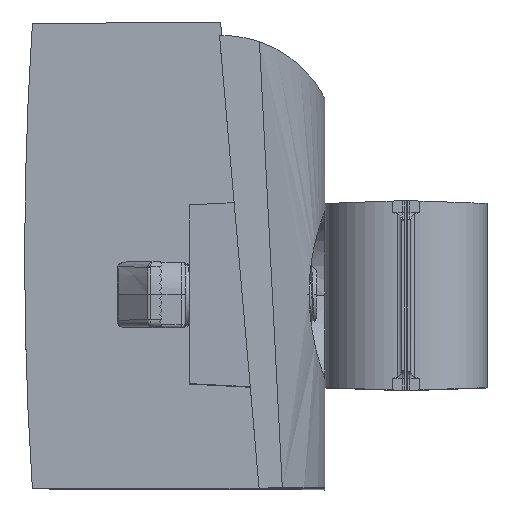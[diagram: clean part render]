
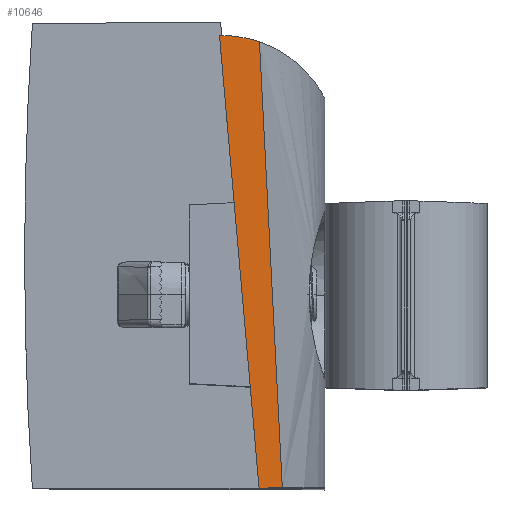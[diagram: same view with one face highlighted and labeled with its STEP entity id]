
A CAD part, top view. The second image highlights one B-rep face of the part: STEP entity #10646.
In plain terms, the highlighted planar face has unit normal (0.017, 0.002, 1) as drawn and (-0.017, 0.002, -1) by its records, which use the part's own axes.
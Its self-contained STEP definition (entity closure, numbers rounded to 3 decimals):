
#427 = CARTESIAN_POINT ( 'NONE',  ( -31.512, 28.919, -34.93 ) ) ;
#644 = CARTESIAN_POINT ( 'NONE',  ( -30.372, 51.291, -34.916 ) ) ;
#715 = EDGE_CURVE ( 'NONE', #9492, #8015, #5163, .T. ) ;
#1250 = LINE ( 'NONE', #20690, #20703 ) ;
#1322 = DIRECTION ( 'NONE',  ( -0.087, -0.996, 0. ) ) ;
#2161 = CARTESIAN_POINT ( 'NONE',  ( -32.997, 0.052, -34.948 ) ) ;
#2322 = VERTEX_POINT ( 'NONE', #7161 ) ;
#2373 = VECTOR ( 'NONE', #1322, 1000. ) ;
#2374 = CARTESIAN_POINT ( 'NONE',  ( -31.965, 20.011, -34.936 ) ) ;
#2838 = CARTESIAN_POINT ( 'NONE',  ( -32.997, 0.052, -34.948 ) ) ;
#3060 = VECTOR ( 'NONE', #5663, 1000. ) ;
#3142 = CARTESIAN_POINT ( 'NONE',  ( -30., 0., -35. ) ) ;
#3189 = CARTESIAN_POINT ( 'NONE',  ( -29.772, 2.605, -35. ) ) ;
#5163 = B_SPLINE_CURVE_WITH_KNOTS ( 'NONE', 3,
 ( #9167, #21247, #644, #21464, #5487, #11209, #19513, #16044, #7660, #5704, #15921, #17998, #14216, #427, #12921, #10775, #14650, #8941, #2374, #19624, #2161 ),
 .UNSPECIFIED., .F., .F.,
 ( 4, 2, 2, 1, 1, 1, 1, 1, 1, 1, 1, 1, 2, 2, 4 ),
 ( 0., 0.25, 0.375, 0.438, 0.469, 0.484, 0.492, 0.496, 0.498, 0.499, 0.5, 0.5, 0.5, 0.5, 1. ),
 .UNSPECIFIED. ) ;
#5196 = VERTEX_POINT ( 'NONE', #3142 ) ;
#5236 = ORIENTED_EDGE ( 'NONE', *, *, #20764, .F. ) ;
#5411 = CARTESIAN_POINT ( 'NONE',  ( -26.841, 58.5, -34.966 ) ) ;
#5487 = CARTESIAN_POINT ( 'NONE',  ( -30.875, 41.417, -34.922 ) ) ;
#5663 = DIRECTION ( 'NONE',  ( 0.087, 0.996, 0. ) ) ;
#5704 = CARTESIAN_POINT ( 'NONE',  ( -31.476, 29.627, -34.929 ) ) ;
#5723 = VECTOR ( 'NONE', #13324, 1000. ) ;
#6267 = ORIENTED_EDGE ( 'NONE', *, *, #14714, .T. ) ;
#7025 = EDGE_CURVE ( 'NONE', #2322, #13084, #9061, .T. ) ;
#7161 = CARTESIAN_POINT ( 'NONE',  ( -25.183, 58.5, -34.995 ) ) ;
#7542 = LINE ( 'NONE', #14315, #5723 ) ;
#7660 = CARTESIAN_POINT ( 'NONE',  ( -31.437, 30.375, -34.929 ) ) ;
#8015 = VERTEX_POINT ( 'NONE', #2838 ) ;
#8328 = CARTESIAN_POINT ( 'NONE',  ( -28.854, 13.1, -35. ) ) ;
#8675 = LINE ( 'NONE', #8328, #2373 ) ;
#8865 = CARTESIAN_POINT ( 'NONE',  ( -28.476, 58.228, -34.938 ) ) ;
#8906 = LINE ( 'NONE', #3189, #3060 ) ;
#8941 = CARTESIAN_POINT ( 'NONE',  ( -31.514, 28.873, -34.93 ) ) ;
#9011 = ORIENTED_EDGE ( 'NONE', *, *, #18920, .T. ) ;
#9035 = CARTESIAN_POINT ( 'NONE',  ( -28.854, 13.1, -35. ) ) ;
#9061 = LINE ( 'NONE', #9265, #19367 ) ;
#9167 = CARTESIAN_POINT ( 'NONE',  ( -30.044, 57.691, -34.911 ) ) ;
#9265 = CARTESIAN_POINT ( 'NONE',  ( -29.771, 58.5, -34.915 ) ) ;
#9492 = VERTEX_POINT ( 'NONE', #17478 ) ;
#10646 = ADVANCED_FACE ( 'NONE', ( #21615 ), #16409, .T. ) ;
#10775 = CARTESIAN_POINT ( 'NONE',  ( -31.513, 28.885, -34.93 ) ) ;
#11209 = CARTESIAN_POINT ( 'NONE',  ( -31.1, 37.013, -34.924 ) ) ;
#12053 = ORIENTED_EDGE ( 'NONE', *, *, #21585, .T. ) ;
#12257 = EDGE_LOOP ( 'NONE', ( #9011, #22560, #6267, #14005, #12053, #5236, #21584 ) ) ;
#12921 = CARTESIAN_POINT ( 'NONE',  ( -31.513, 28.895, -34.93 ) ) ;
#13084 = VERTEX_POINT ( 'NONE', #18307 ) ;
#13324 = DIRECTION ( 'NONE',  ( -1., 0.017, 0.017 ) ) ;
#13606 = VERTEX_POINT ( 'NONE', #16203 ) ;
#14005 = ORIENTED_EDGE ( 'NONE', *, *, #7025, .T. ) ;
#14216 = CARTESIAN_POINT ( 'NONE',  ( -31.509, 28.966, -34.93 ) ) ;
#14315 = CARTESIAN_POINT ( 'NONE',  ( -29.818, -0.003, -35.003 ) ) ;
#14650 = CARTESIAN_POINT ( 'NONE',  ( -31.514, 28.878, -34.93 ) ) ;
#14714 = EDGE_CURVE ( 'NONE', #9492, #2322, #18953, .T. ) ;
#15011 = VERTEX_POINT ( 'NONE', #9035 ) ;
#15286 = AXIS2_PLACEMENT_3D ( 'NONE', #17710, #16082, #16301 ) ;
#15921 = CARTESIAN_POINT ( 'NONE',  ( -31.495, 29.25, -34.929 ) ) ;
#16044 = CARTESIAN_POINT ( 'NONE',  ( -31.362, 31.849, -34.928 ) ) ;
#16082 = DIRECTION ( 'NONE',  ( -0.017, 0.002, -1. ) ) ;
#16203 = CARTESIAN_POINT ( 'NONE',  ( -26.772, 36.9, -35. ) ) ;
#16301 = DIRECTION ( 'NONE',  ( -1., 0., 0.017 ) ) ;
#16409 = PLANE ( 'NONE',  #15286 ) ;
#16551 = EDGE_CURVE ( 'NONE', #15011, #5196, #8675, .T. ) ;
#17478 = CARTESIAN_POINT ( 'NONE',  ( -30.044, 57.691, -34.911 ) ) ;
#17710 = CARTESIAN_POINT ( 'NONE',  ( -29.772, 2.605, -35. ) ) ;
#17816 = CARTESIAN_POINT ( 'NONE',  ( -25.183, 58.5, -34.995 ) ) ;
#17998 = CARTESIAN_POINT ( 'NONE',  ( -31.504, 29.061, -34.93 ) ) ;
#18307 = CARTESIAN_POINT ( 'NONE',  ( -24.882, 58.5, -35. ) ) ;
#18920 = EDGE_CURVE ( 'NONE', #5196, #8015, #7542, .T. ) ;
#18953 =( BOUNDED_CURVE ( )  B_SPLINE_CURVE ( 3, ( #21280, #8865, #5411, #17816 ),
 .UNSPECIFIED., .F., .F. ) 
 B_SPLINE_CURVE_WITH_KNOTS ( ( 4, 4 ),
 ( 4.295, 4.625 ),
 .UNSPECIFIED. ) 
 CURVE ( )  GEOMETRIC_REPRESENTATION_ITEM ( )  RATIONAL_B_SPLINE_CURVE ( ( 1., 0.991, 0.991, 1. ) ) 
 REPRESENTATION_ITEM ( '' )  );
#19367 = VECTOR ( 'NONE', #19950, 1000. ) ;
#19513 = CARTESIAN_POINT ( 'NONE',  ( -31.217, 34.711, -34.926 ) ) ;
#19624 = CARTESIAN_POINT ( 'NONE',  ( -32.459, 10.405, -34.941 ) ) ;
#19950 = DIRECTION ( 'NONE',  ( 1., 0., -0.017 ) ) ;
#20340 = DIRECTION ( 'NONE',  ( -0.087, -0.996, 0. ) ) ;
#20690 = CARTESIAN_POINT ( 'NONE',  ( -24.882, 58.5, -35. ) ) ;
#20703 = VECTOR ( 'NONE', #20340, 1000. ) ;
#20764 = EDGE_CURVE ( 'NONE', #15011, #13606, #8906, .T. ) ;
#21247 = CARTESIAN_POINT ( 'NONE',  ( -30.181, 55.025, -34.913 ) ) ;
#21280 = CARTESIAN_POINT ( 'NONE',  ( -30.044, 57.691, -34.911 ) ) ;
#21464 = CARTESIAN_POINT ( 'NONE',  ( -30.74, 44.086, -34.92 ) ) ;
#21584 = ORIENTED_EDGE ( 'NONE', *, *, #16551, .T. ) ;
#21585 = EDGE_CURVE ( 'NONE', #13084, #13606, #1250, .T. ) ;
#21615 = FACE_OUTER_BOUND ( 'NONE', #12257, .T. ) ;
#22560 = ORIENTED_EDGE ( 'NONE', *, *, #715, .F. ) ;
